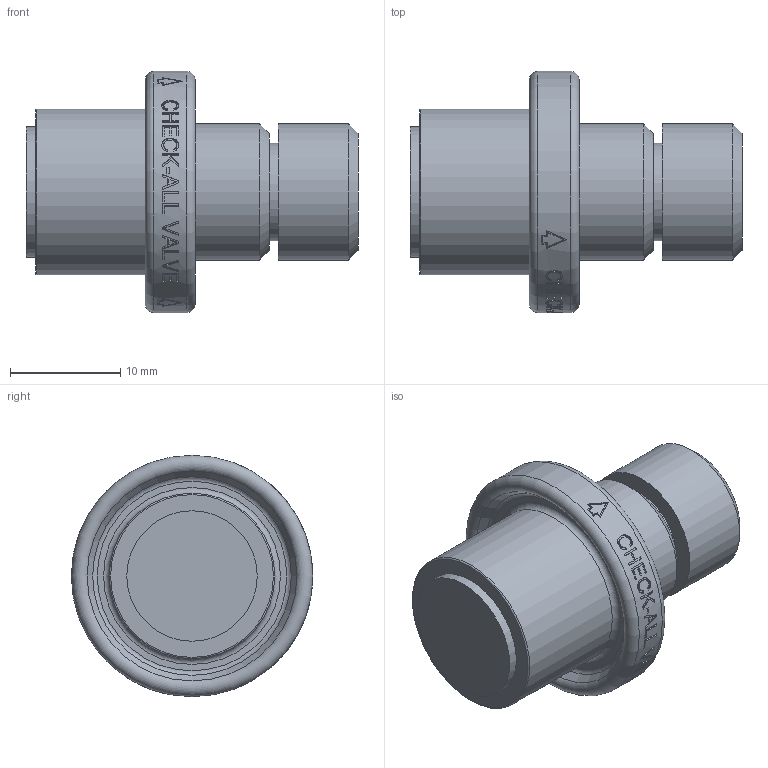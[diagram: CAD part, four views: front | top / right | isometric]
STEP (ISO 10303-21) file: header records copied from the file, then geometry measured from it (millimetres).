
FILE_DESCRIPTION( ( 'Unknown' ), '1' );
FILE_NAME( 'Y:/ENGR/3D Solid Edge Models/TC/Stp/TCF.stp', 'Unknown', ( 'Unknown' ), ( 'Unknown' ), 'PSStep 16.0.42', 'Unknown', ' ' );
FILE_SCHEMA( ( 'AUTOMOTIVE_DESIGN { 1 0 10303 214 1 1 1 1 }' ) );
Length unit declared in the file: millimetre
Products named in the file (1): 1
Bounding box: 30.05 x 21.85 x 21.85 mm (x, y, z)
Volume: 4903.9 mm3; surface area: 2310.1 mm2
Topology: 1 solids, 1 shells, 212 faces, 536 edges, 354 vertices
Faces by surface type: plane 126, bspline 45, cylinder 29, torus 7, cone 5
Full cylindrical faces by diameter (mm): 8.839 x1, 11.811 x1, 12.319 x2, 14.986 x1, 21.848 x1
Entity records: 10052 total; most frequent: CARTESIAN_POINT 3492, ORIENTED_EDGE 1032, DIRECTION 910, EDGE_CURVE 516, VERTEX_POINT 352, AXIS2_PLACEMENT_3D 332, EDGE_LOOP 258, LINE 246
